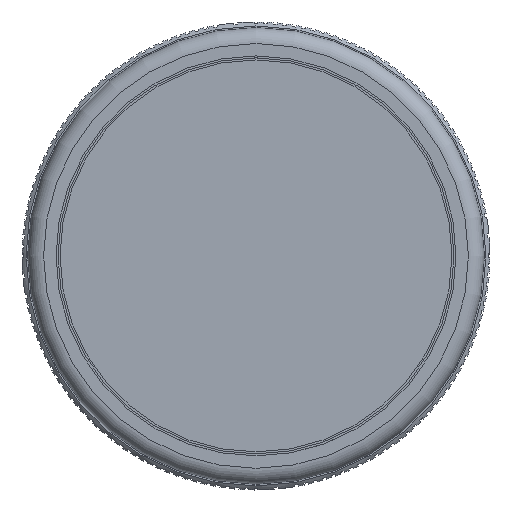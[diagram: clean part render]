
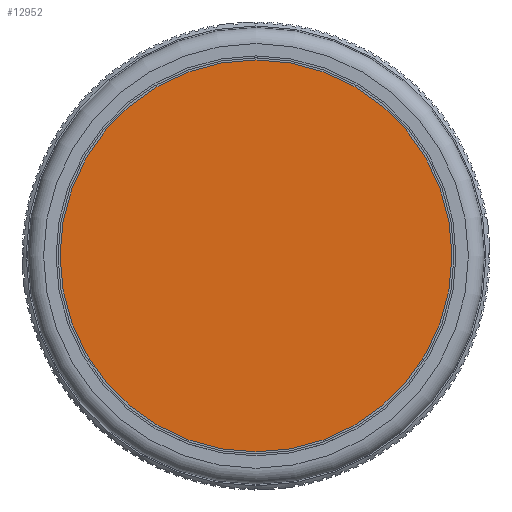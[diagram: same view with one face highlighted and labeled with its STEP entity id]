
A CAD part, top view. The second image highlights one B-rep face of the part: STEP entity #12952.
In plain terms, the highlighted planar face has unit normal (0, 0, 1) as drawn and (-1, 0, 0) by its records, which use the part's own axes.
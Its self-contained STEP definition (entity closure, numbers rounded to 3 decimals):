
#547=PLANE('',#14167);
#1345=FACE_OUTER_BOUND('',#2018,.T.);
#2018=EDGE_LOOP('',(#12090));
#2544=CIRCLE('',#14166,24.501);
#6519=VERTEX_POINT('',#24171);
#8384=EDGE_CURVE('',#6519,#6519,#2544,.T.);
#12090=ORIENTED_EDGE('',*,*,#8384,.F.);
#12952=ADVANCED_FACE('',(#1345),#547,.T.);
#14166=AXIS2_PLACEMENT_3D('',#24172,#17757,#17758);
#14167=AXIS2_PLACEMENT_3D('',#24174,#17760,#17761);
#17757=DIRECTION('center_axis',(1.,0.,0.));
#17758=DIRECTION('ref_axis',(0.,0.,1.));
#17760=DIRECTION('center_axis',(-1.,0.,0.));
#17761=DIRECTION('ref_axis',(0.,0.,1.));
#24171=CARTESIAN_POINT('',(169.936,108.808,-24.501));
#24172=CARTESIAN_POINT('Origin',(169.936,108.808,0.));
#24174=CARTESIAN_POINT('Origin',(169.936,108.808,0.));
